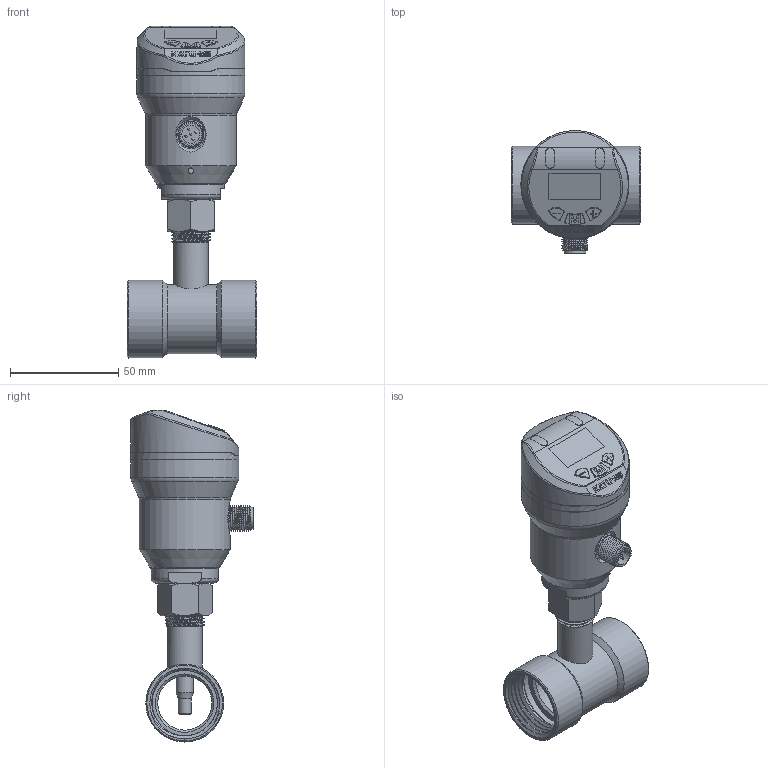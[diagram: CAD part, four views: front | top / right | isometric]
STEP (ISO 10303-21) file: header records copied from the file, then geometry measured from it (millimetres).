
FILE_DESCRIPTION( (''), '2;1');
FILE_NAME( 'QEKE_M18_L60_M18KL60SA_G1_tee.step', '2026-06-25T11:20:19+08:00', (''), (''), '', '', '');
FILE_SCHEMA (('AP203_CONFIGURATION_CONTROLLED_3D_DESIGN_OF_MECHANICAL_PARTS_AND_ASSEMBLIES_MIM_LF { 1 0 10303 403 2 1 2}'));
Length unit declared in the file: millimetre
Products named in the file (1): QEKE M18_L60_M18KL60SA_G1_tee
Bounding box: 60 x 56.7 x 153.6 mm (x, y, z)
Volume: 117069.4 mm3; surface area: 51941.9 mm2
Topology: 11 solids, 14 shells, 637 faces, 1577 edges, 1016 vertices
Faces by surface type: plane 326, cylinder 146, cone 65, bspline 57, torus 33, sphere 10
Full cylindrical faces by diameter (mm): 1 x10, 2.5 x1, 2.7 x5, 3.1 x1, 3.5 x2, 6 x2, 6.5 x1, 8 x1, 8.4 x1, 9.7 x1, 9.8 x1, 10.1 x1, 10.5 x1, 11 x1, 11.6 x1, 12 x2, 13.4 x1, 13.7 x1, 15.4 x1, 16 x1, 16.1 x1, 16.5 x4, 25 x1, 31 x1, 32 x1, 32.4 x2, 36 x2, 42 x1, 48 x1, 50 x3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
Entity records: 26571 total; most frequent: CARTESIAN_POINT 11702, ORIENTED_EDGE 2826, DIRECTION 2764, EDGE_CURVE 1413, AXIS2_PLACEMENT_3D 1007, VERTEX_POINT 956, EDGE_LOOP 794, LINE 750
